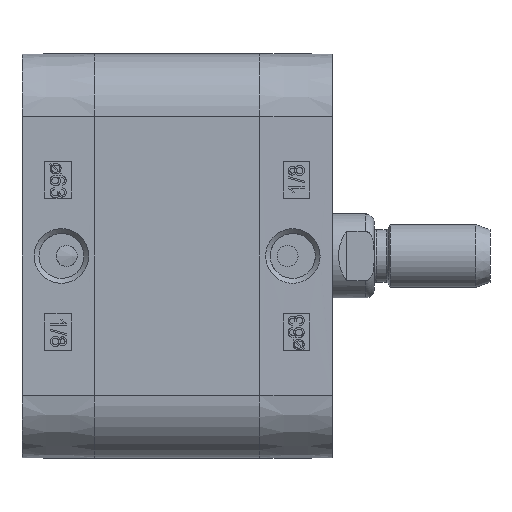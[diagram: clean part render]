
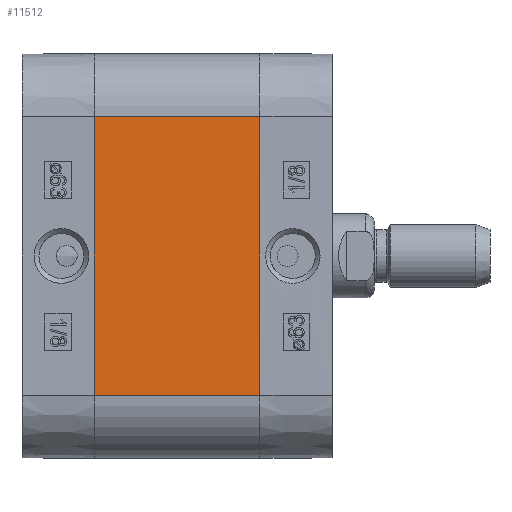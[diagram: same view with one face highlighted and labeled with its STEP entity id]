
A CAD part, left-side view. The second image highlights one B-rep face of the part: STEP entity #11512.
In plain terms, the highlighted planar face has unit normal (-1, 0, 0).
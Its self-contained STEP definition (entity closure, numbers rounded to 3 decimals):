
#5842=CARTESIAN_POINT('',(-38.5,-31.5,26.5));
#5843=VERTEX_POINT('',#5842);
#5850=CARTESIAN_POINT('',(-38.5,-31.5,-26.5));
#5851=VERTEX_POINT('',#5850);
#5852=CARTESIAN_POINT('',(-38.5,-31.5,-26.5));
#5853=DIRECTION('',(0.0,0.0,1.0));
#5854=VECTOR('',#5853,53.0);
#5855=LINE('',#5852,#5854);
#5856=EDGE_CURVE('',#5851,#5843,#5855,.T.);
#11470=CARTESIAN_POINT('',(-38.5,0.0,-26.5));
#11471=VERTEX_POINT('',#11470);
#11472=CARTESIAN_POINT('',(-38.5,0.0,-26.5));
#11473=DIRECTION('',(0.0,-1.0,0.0));
#11474=VECTOR('',#11473,31.5);
#11475=LINE('',#11472,#11474);
#11476=EDGE_CURVE('',#11471,#5851,#11475,.T.);
#11489=CARTESIAN_POINT('',(-38.5,0.0,-26.5));
#11490=DIRECTION('',(-1.0,0.0,0.0));
#11491=DIRECTION('',(0.0,0.0,1.0));
#11492=AXIS2_PLACEMENT_3D('',#11489,#11490,#11491);
#11493=PLANE('',#11492);
#11494=ORIENTED_EDGE('',*,*,#5856,.T.);
#11495=CARTESIAN_POINT('',(-38.5,0.0,26.5));
#11496=VERTEX_POINT('',#11495);
#11497=CARTESIAN_POINT('',(-38.5,0.0,26.5));
#11498=DIRECTION('',(0.0,-1.0,0.0));
#11499=VECTOR('',#11498,31.5);
#11500=LINE('',#11497,#11499);
#11501=EDGE_CURVE('',#11496,#5843,#11500,.T.);
#11502=ORIENTED_EDGE('',*,*,#11501,.F.);
#11503=CARTESIAN_POINT('',(-38.5,0.0,-26.5));
#11504=DIRECTION('',(0.0,0.0,1.0));
#11505=VECTOR('',#11504,53.0);
#11506=LINE('',#11503,#11505);
#11507=EDGE_CURVE('',#11471,#11496,#11506,.T.);
#11508=ORIENTED_EDGE('',*,*,#11507,.F.);
#11509=ORIENTED_EDGE('',*,*,#11476,.T.);
#11510=EDGE_LOOP('',(#11494,#11502,#11508,#11509));
#11511=FACE_OUTER_BOUND('',#11510,.T.);
#11512=ADVANCED_FACE('',(#11511),#11493,.T.);
